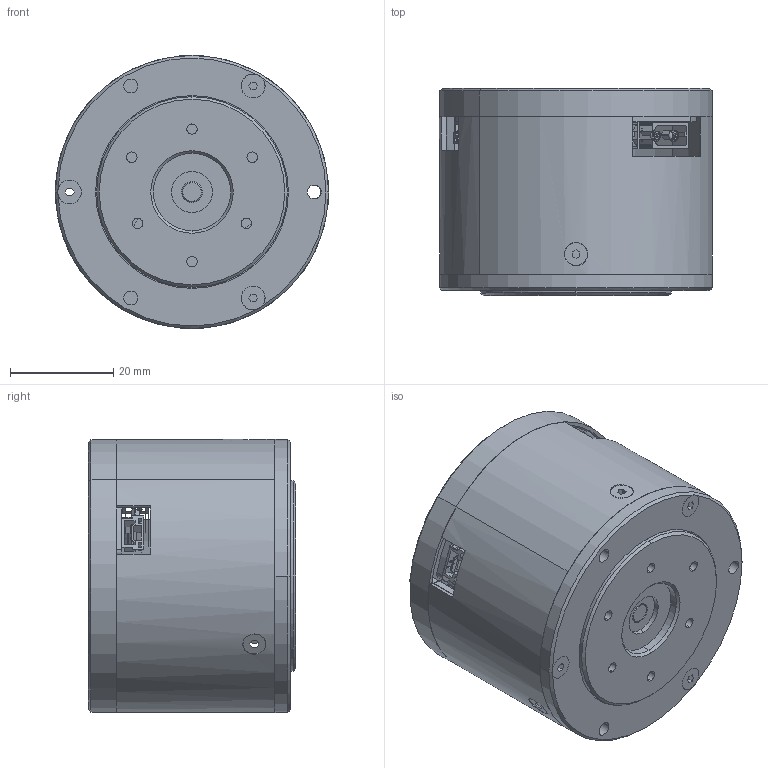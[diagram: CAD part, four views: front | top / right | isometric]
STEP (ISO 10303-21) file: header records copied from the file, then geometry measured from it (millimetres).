
FILE_DESCRIPTION (( 'STEP AP203' ), '1' );
FILE_NAME ('AK40-10 KV170双编电机.STEP', '2026-06-12T01:14:55', ( '微软用户' ), ( '微软中国' ), 'SwSTEP 2.0', 'SolidWorks 2020', '' );
FILE_SCHEMA (( 'CONFIG_CONTROL_DESIGN' ));
Length unit declared in the file: millimetre
Products named in the file (1): AK40-10 KV170邧晤萇儂
Bounding box: 53 x 40.2 x 53 mm (x, y, z)
Surface area: 18951.6 mm2 (no closed solid volume)
Topology: 0 solids, 46 shells, 254 faces, 1344 edges, 1132 vertices
Faces by surface type: plane 142, cylinder 79, cone 22, torus 8, bspline 3
Entity records: 14928 total; most frequent: CARTESIAN_POINT 4408, DIRECTION 2178, ORIENTED_EDGE 1714, EDGE_CURVE 1344, VERTEX_POINT 1132, VECTOR 816, LINE 816, AXIS2_PLACEMENT_3D 681
